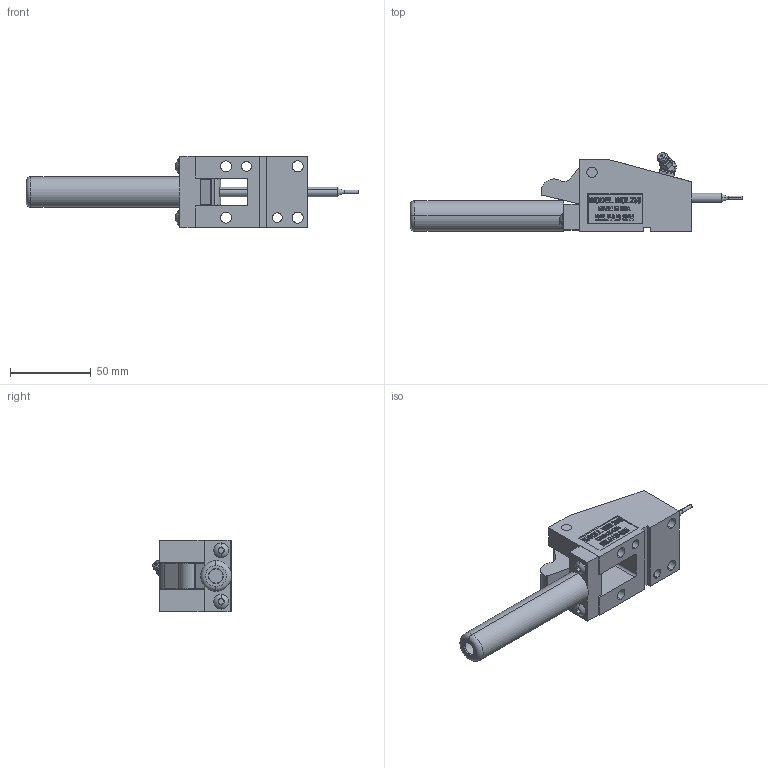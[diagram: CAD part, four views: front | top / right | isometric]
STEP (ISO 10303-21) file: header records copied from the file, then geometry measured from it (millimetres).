
FILE_DESCRIPTION (( 'STEP AP214' ), '1' );
FILE_NAME ('MOL25045-C.STEP', '2014-01-07T22:21:40', ( 'user' ), ( '' ), 'SwSTEP 2.0', 'SolidWorks 2009', '' );
FILE_SCHEMA (( 'AUTOMOTIVE_DESIGN' ));
Length unit declared in the file: inch
Products named in the file (1): MOL25045-C
Bounding box: 205.59 x 48.75 x 44.45 mm (x, y, z)
Surface area: 42521.1 mm2 (no closed solid volume)
Topology: 0 solids, 10 shells, 488 faces, 1478 edges, 992 vertices
Faces by surface type: plane 281, bspline 97, cylinder 76, torus 24, cone 10
Entity records: 28473 total; most frequent: CARTESIAN_POINT 9686, ORIENTED_EDGE 2649, DIRECTION 2166, EDGE_CURVE 1478, VERTEX_POINT 992, LINE 980, VECTOR 980, AXIS2_PLACEMENT_3D 593
